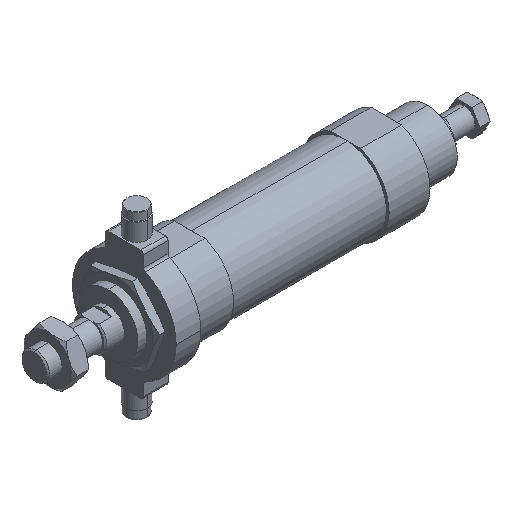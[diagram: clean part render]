
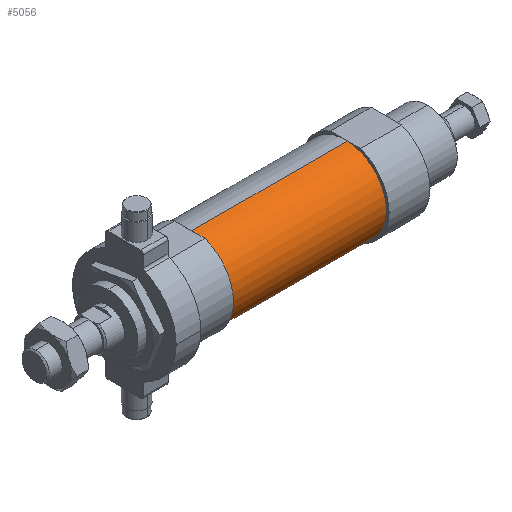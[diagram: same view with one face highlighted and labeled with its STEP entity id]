
A CAD part, isometric view. The second image highlights one B-rep face of the part: STEP entity #5056.
In plain terms, the highlighted cylindrical face has radius 15 mm (diameter 30 mm), a partial arc.
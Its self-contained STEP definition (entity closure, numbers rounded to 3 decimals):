
#35 = DIRECTION ( 'NONE',  ( 0., 0., -1. ) ) ;
#100 = EDGE_LOOP ( 'NONE', ( #5026, #677, #1606, #1709 ) ) ;
#265 = CARTESIAN_POINT ( 'NONE',  ( 28.5, 0., -15. ) ) ;
#677 = ORIENTED_EDGE ( 'NONE', *, *, #1890, .F. ) ;
#964 = CARTESIAN_POINT ( 'NONE',  ( 28.5, 0., 0. ) ) ;
#998 = EDGE_CURVE ( 'NONE', #2682, #3778, #2121, .T. ) ;
#1150 = CARTESIAN_POINT ( 'NONE',  ( 28.5, 0., 0. ) ) ;
#1240 = CARTESIAN_POINT ( 'NONE',  ( -28.5, 0., 0. ) ) ;
#1606 = ORIENTED_EDGE ( 'NONE', *, *, #3794, .T. ) ;
#1694 = AXIS2_PLACEMENT_3D ( 'NONE', #1240, #4509, #4506 ) ;
#1709 = ORIENTED_EDGE ( 'NONE', *, *, #3237, .T. ) ;
#1720 = CARTESIAN_POINT ( 'NONE',  ( 28.5, 0., 15. ) ) ;
#1890 = EDGE_CURVE ( 'NONE', #3979, #2682, #3919, .T. ) ;
#2121 = LINE ( 'NONE', #5365, #4696 ) ;
#2172 = CYLINDRICAL_SURFACE ( 'NONE', #3711, 15. ) ;
#2682 = VERTEX_POINT ( 'NONE', #265 ) ;
#2790 = DIRECTION ( 'NONE',  ( -1., 0., 0. ) ) ;
#2872 = AXIS2_PLACEMENT_3D ( 'NONE', #964, #5395, #35 ) ;
#2939 = VERTEX_POINT ( 'NONE', #3276 ) ;
#3237 = EDGE_CURVE ( 'NONE', #2939, #3778, #5559, .T. ) ;
#3276 = CARTESIAN_POINT ( 'NONE',  ( -28.5, 0., 15. ) ) ;
#3693 = LINE ( 'NONE', #3777, #4956 ) ;
#3711 = AXIS2_PLACEMENT_3D ( 'NONE', #1150, #4687, #5152 ) ;
#3777 = CARTESIAN_POINT ( 'NONE',  ( 28.5, 0., 15. ) ) ;
#3778 = VERTEX_POINT ( 'NONE', #4703 ) ;
#3794 = EDGE_CURVE ( 'NONE', #3979, #2939, #3693, .T. ) ;
#3871 = DIRECTION ( 'NONE',  ( -1., 0., 0. ) ) ;
#3919 = CIRCLE ( 'NONE', #2872, 15. ) ;
#3979 = VERTEX_POINT ( 'NONE', #1720 ) ;
#4044 = FACE_OUTER_BOUND ( 'NONE', #100, .T. ) ;
#4506 = DIRECTION ( 'NONE',  ( 0., 0., -1. ) ) ;
#4509 = DIRECTION ( 'NONE',  ( 1., 0., 0. ) ) ;
#4687 = DIRECTION ( 'NONE',  ( -1., 0., 0. ) ) ;
#4696 = VECTOR ( 'NONE', #2790, 1000. ) ;
#4703 = CARTESIAN_POINT ( 'NONE',  ( -28.5, 0., -15. ) ) ;
#4956 = VECTOR ( 'NONE', #3871, 1000. ) ;
#5026 = ORIENTED_EDGE ( 'NONE', *, *, #998, .F. ) ;
#5056 = ADVANCED_FACE ( 'NONE', ( #4044 ), #2172, .T. ) ;
#5152 = DIRECTION ( 'NONE',  ( 0., 0., 1. ) ) ;
#5365 = CARTESIAN_POINT ( 'NONE',  ( 28.5, 0., -15. ) ) ;
#5395 = DIRECTION ( 'NONE',  ( 1., 0., 0. ) ) ;
#5559 = CIRCLE ( 'NONE', #1694, 15. ) ;
